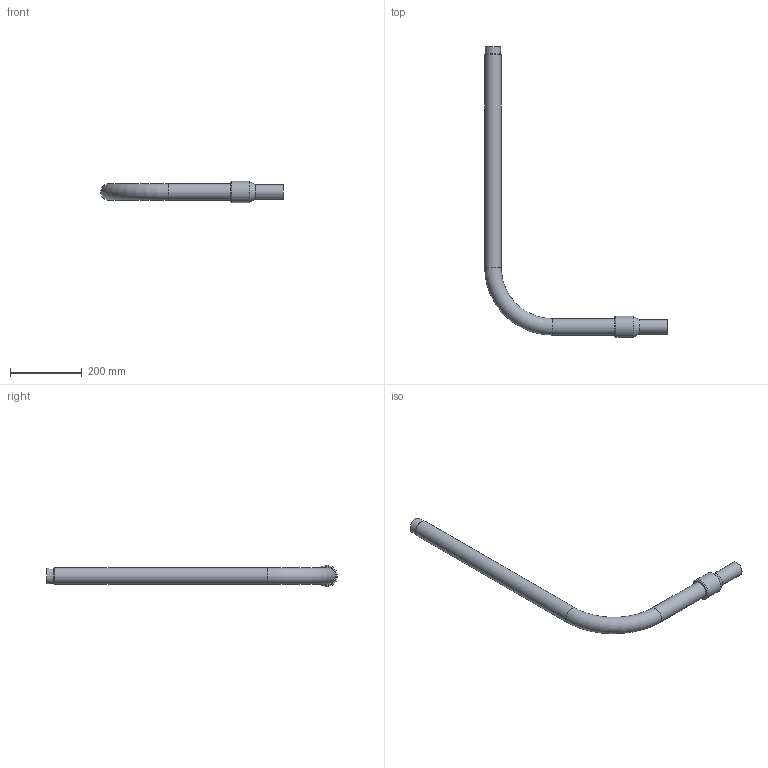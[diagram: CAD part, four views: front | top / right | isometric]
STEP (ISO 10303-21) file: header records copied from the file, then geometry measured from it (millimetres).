
FILE_DESCRIPTION(/* description */ ('Unknown'),/* implementation_level */ '2;1');
FILE_NAME(/* name */ 'RTFZCRP040C',/* time_stamp */ '2022-07-14T11:10:47+02:00',/* author */ ('Unknown'),/* organization */ ('Unknown'),/* preprocessor_version */ 'ST-DEVELOPER v18.102',/* originating_system */ 'Solid Edge',/* authorisation */ 'Unknown');
FILE_SCHEMA (('AUTOMOTIVE_DESIGN {1 0 10303 214 3 1 1}'));
Length unit declared in the file: millimetre
Products named in the file (3): RTFZCRP040C; Parte PE; Parte Acciaio
Assembly tree (2 placements, depth 2):
  RTFZCRP040C
    Parte PE
    Parte Acciaio
Bounding box: 508 x 809.5 x 59 mm (x, y, z)
Volume: 822419.2 mm3; surface area: 325353.5 mm2
Topology: 2 solids, 2 shells, 19 faces, 34 edges, 20 vertices
Faces by surface type: cylinder 8, plane 5, cone 3, torus 3
Full cylindrical faces by diameter (mm): 32.6 x1, 36 x2, 40 x1, 42.4 x1, 46 x2, 59 x1
Entity records: 532 total; most frequent: DIRECTION 82, CARTESIAN_POINT 60, AXIS2_PLACEMENT_3D 41, ORIENTED_EDGE 38, EDGE_LOOP 38, FACE_BOUND 38, EDGE_CURVE 19, VERTEX_POINT 19
